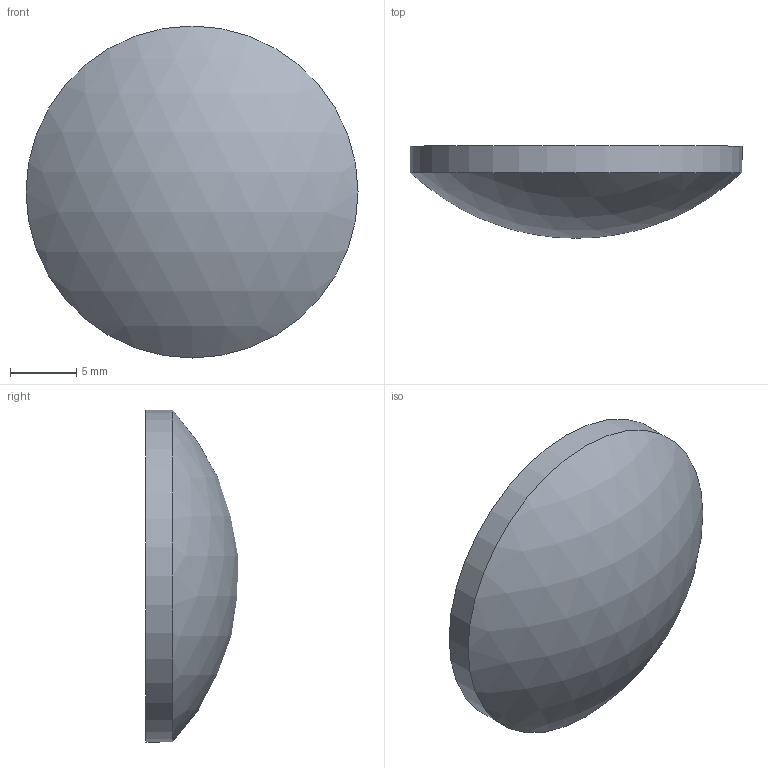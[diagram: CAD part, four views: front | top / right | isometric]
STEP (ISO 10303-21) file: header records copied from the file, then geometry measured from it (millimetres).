
FILE_DESCRIPTION((''),'2;1');
FILE_NAME('Y:\メカ関係\2能登便\素子ﾓﾃﾞﾙ（角屋さま野中さま⇒川島）\5月分\1_球面平凸レンズ-BK7\SLB-P\φ25\SLB-25-35P\SLB-25-35P.stp','2009-05-13T13:09:26',('usernoto011'),(''),'Autodesk Inventor 2008','Autodesk Inventor 2008','');
FILE_SCHEMA(('AUTOMOTIVE_DESIGN { 1 0 10303 214 1 1 1 1 }'));
Length unit declared in the file: millimetre
Products named in the file (1): SLB-25-35P
Bounding box: 25 x 6.94 x 25 mm (x, y, z)
Volume: 2277.9 mm3; surface area: 1218.2 mm2
Topology: 1 solids, 1 shells, 3 faces, 3 edges, 2 vertices
Faces by surface type: sphere 1, cylinder 1, plane 1
Full cylindrical faces by diameter (mm): 25 x1
Entity records: 80 total; most frequent: DIRECTION 12, CARTESIAN_POINT 8, AXIS2_PLACEMENT_3D 6, ORIENTED_EDGE 4, EDGE_LOOP 4, FACE_OUTER_BOUND 3, ADVANCED_FACE 3, DIMENSIONAL_EXPONENTS 2
